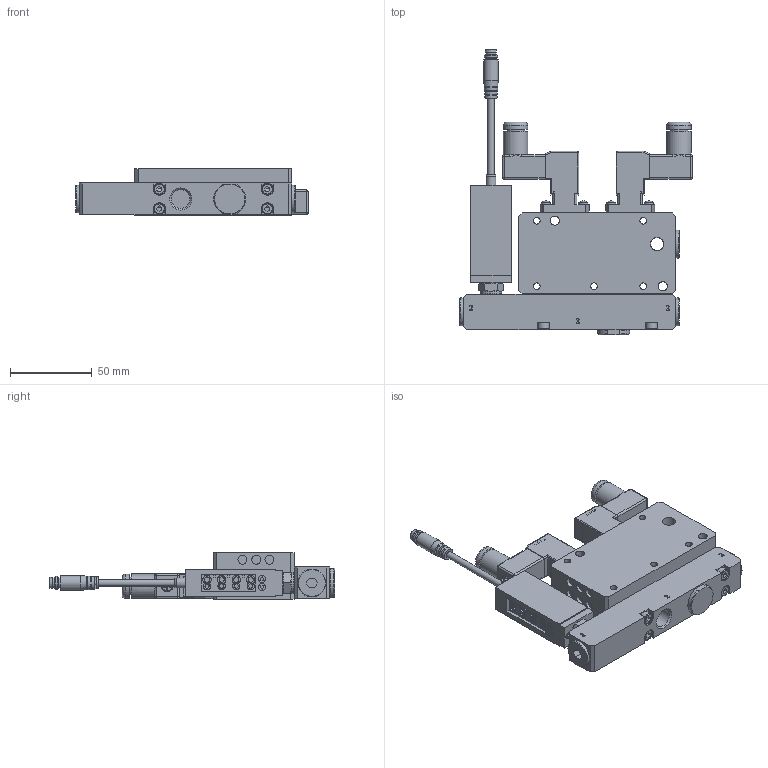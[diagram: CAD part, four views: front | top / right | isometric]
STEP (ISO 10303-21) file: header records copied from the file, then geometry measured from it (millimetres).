
FILE_DESCRIPTION(/* description */ ('GENERATORI DI VUOTO MULTISTADIO MODULARE 8 UGELLI (GVMES-8) CON VACUOSTATO E CONNETTORE M8'),/* implementation_level */ '2;1');
FILE_NAME(/* name */ 'C:\PNX_VAULTFOLDER\Area Tecnica\Disegni\VARIE-3D\Componenti\1900 (vuoto)\19M14_M_18_ME_EF.stp',/* time_stamp */ '2021-05-04T09:55:30+02:00',/* author */ ('maniean1'),/* organization */ (''),/* preprocessor_version */ 'ST-DEVELOPER v18.1',/* originating_system */ 'Autodesk Inventor 2021',/* authorisation */ '');
FILE_SCHEMA (('AUTOMOTIVE_DESIGN { 1 0 10303 214 3 1 1 }'));
Length unit declared in the file: millimetre
Products named in the file (8): 19M14.M.18.ME.EF; 19M14_M_15_ME_ED_c; N221.0F; DS.30.C.C.F8.#.2; DS.30.C.C.F8.#.0; CONN_4P; T10714; 315.11.00
Assembly tree (11 placements, depth 3):
  19M14.M.18.ME.EF
    19M14_M_15_ME_ED_c
    N221.0F  x2
    DS.30.C.C.F8.#.2
      DS.30.C.C.F8.#.0
      CONN_4P
    T10714  x3
    315.11.00  x2
Bounding box: 141.9 x 174.3 x 28.5 mm (x, y, z)
Volume: 250154.6 mm3; surface area: 59011.6 mm2
Topology: 10 solids, 34 shells, 1314 faces, 3238 edges, 2085 vertices
Faces by surface type: plane 690, cylinder 291, bspline 218, cone 67, torus 30, sphere 18
Full cylindrical faces by diameter (mm): 0.6 x3, 1 x8, 2 x2, 2.2 x2, 2.459 x6, 3 x6, 3.2 x4, 3.242 x4, 3.8 x4, 4 x7, 4.1 x10, 4.4 x1, 4.9 x1, 5.5 x12, 5.8 x1, 6 x1, 6.5 x4, 6.9 x1, 7 x7, 7.6 x2, 8 x3, 8.566 x1, 9 x1, 9.73 x1, 10 x1, 10.4 x1, 10.8 x2, 11.445 x4, 12.9 x1, 13 x1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
Entity records: 36493 total; most frequent: CARTESIAN_POINT 13903, ORIENTED_EDGE 4556, DIRECTION 3990, EDGE_CURVE 2278, VERTEX_POINT 1484, AXIS2_PLACEMENT_3D 1341, LINE 1308, VECTOR 1308
